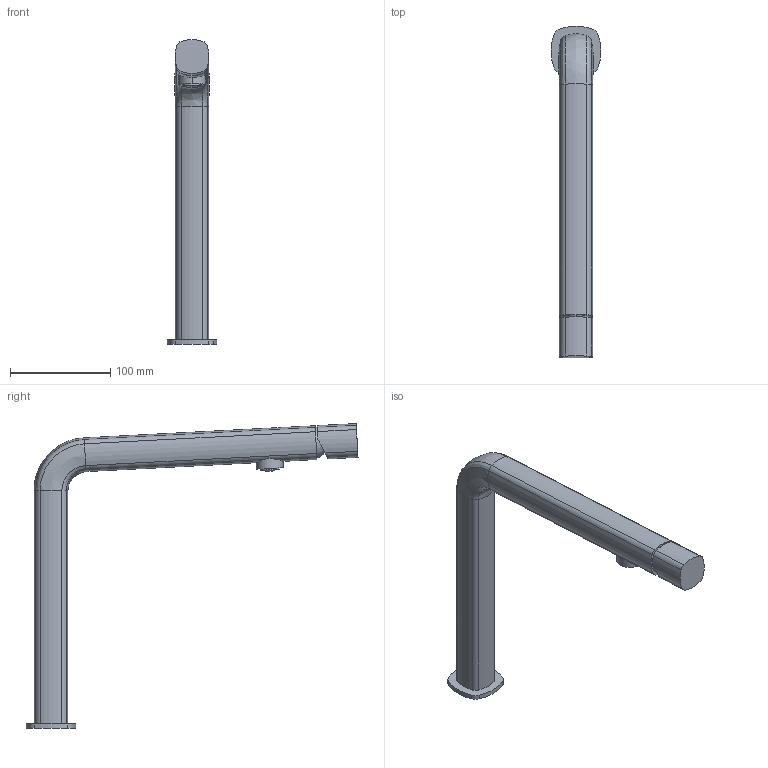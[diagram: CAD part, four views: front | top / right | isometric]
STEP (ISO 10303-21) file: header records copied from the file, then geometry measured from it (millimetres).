
FILE_DESCRIPTION(('FreeCAD Model'),'2;1');
FILE_NAME('Open CASCADE Shape Model','2024-11-19T15:07:56',('Author'),( ''),'Open CASCADE STEP processor 7.6','FreeCAD','Unknown');
FILE_SCHEMA(('AUTOMOTIVE_DESIGN { 1 0 10303 214 1 1 1 1 }'));
Length unit declared in the file: millimetre
Products named in the file (2): TopLevelAssembly; Połączona geometria bryłowa
Assembly tree (1 placements, depth 2):
  TopLevelAssembly
    Połączona geometria bryłowa
Bounding box: 49.87 x 331.77 x 304.71 mm (x, y, z)
Volume: 570040.8 mm3; surface area: 69777.4 mm2
Topology: 1 solids, 1 shells, 59 faces, 144 edges, 87 vertices
Faces by surface type: cylinder 37, bspline 12, plane 10
Entity records: 1919 total; most frequent: CARTESIAN_POINT 491, DIRECTION 322, ORIENTED_EDGE 284, EDGE_CURVE 142, AXIS2_PLACEMENT_3D 139, VERTEX_POINT 87, CIRCLE 85, FACE_BOUND 61
